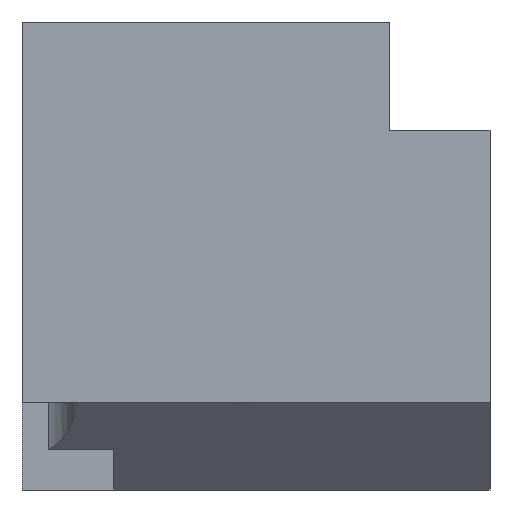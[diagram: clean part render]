
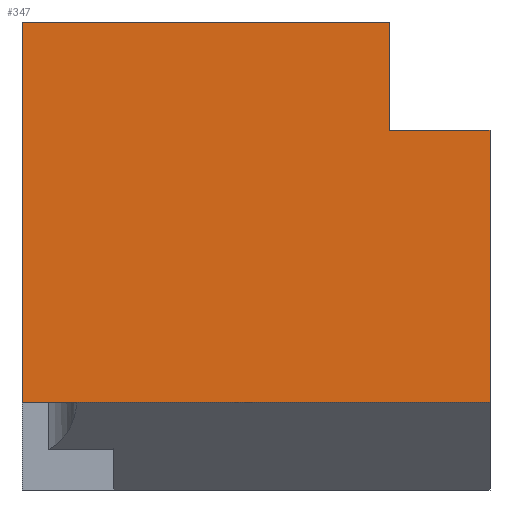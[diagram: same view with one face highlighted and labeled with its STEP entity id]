
A CAD part, front view. The second image highlights one B-rep face of the part: STEP entity #347.
In plain terms, the highlighted planar face has unit normal (0, -1, 0).
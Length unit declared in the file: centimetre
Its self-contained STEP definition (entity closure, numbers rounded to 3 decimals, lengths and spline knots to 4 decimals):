
#52 = CARTESIAN_POINT ( 'NONE',  ( 1000., 0., 1000. ) ) ;
#81 = VECTOR ( 'NONE', #177, 100. ) ;
#83 = VECTOR ( 'NONE', #890, 100. ) ;
#104 = CARTESIAN_POINT ( 'NONE',  ( 0., 0., 188.0284 ) ) ;
#117 = ORIENTED_EDGE ( 'NONE', *, *, #833, .F. ) ;
#118 = CARTESIAN_POINT ( 'NONE',  ( 0., 0., 1000. ) ) ;
#119 = EDGE_CURVE ( 'NONE', #808, #438, #756, .T. ) ;
#134 = PLANE ( 'NONE',  #648 ) ;
#140 = VECTOR ( 'NONE', #167, 100. ) ;
#147 = CARTESIAN_POINT ( 'NONE',  ( 784.7221, 0., 768.9342 ) ) ;
#167 = DIRECTION ( 'NONE',  ( 1., 0., 0. ) ) ;
#172 = VERTEX_POINT ( 'NONE', #147 ) ;
#175 = CARTESIAN_POINT ( 'NONE',  ( 0., 0., 1000. ) ) ;
#177 = DIRECTION ( 'NONE',  ( 0., 0., -1. ) ) ;
#188 = VECTOR ( 'NONE', #417, 100. ) ;
#239 = CARTESIAN_POINT ( 'NONE',  ( 0., 0., 188.0284 ) ) ;
#249 = DIRECTION ( 'NONE',  ( 0., 0., -1. ) ) ;
#253 = ORIENTED_EDGE ( 'NONE', *, *, #467, .F. ) ;
#314 = LINE ( 'NONE', #606, #83 ) ;
#342 = VECTOR ( 'NONE', #536, 100. ) ;
#344 = LINE ( 'NONE', #918, #140 ) ;
#347 = ADVANCED_FACE ( 'NONE', ( #594 ), #134, .F. ) ;
#407 = EDGE_LOOP ( 'NONE', ( #822, #839, #117, #643, #617, #253 ) ) ;
#412 = VERTEX_POINT ( 'NONE', #434 ) ;
#417 = DIRECTION ( 'NONE',  ( 1., 0., 0. ) ) ;
#421 = VERTEX_POINT ( 'NONE', #928 ) ;
#434 = CARTESIAN_POINT ( 'NONE',  ( 784.7221, 0., 1000. ) ) ;
#438 = VERTEX_POINT ( 'NONE', #644 ) ;
#447 = CARTESIAN_POINT ( 'NONE',  ( 0., 0., 1000. ) ) ;
#467 = EDGE_CURVE ( 'NONE', #493, #438, #717, .T. ) ;
#493 = VERTEX_POINT ( 'NONE', #830 ) ;
#536 = DIRECTION ( 'NONE',  ( 1., 0., 0. ) ) ;
#594 = FACE_OUTER_BOUND ( 'NONE', #407, .T. ) ;
#606 = CARTESIAN_POINT ( 'NONE',  ( 784.7221, 0., 768.9342 ) ) ;
#617 = ORIENTED_EDGE ( 'NONE', *, *, #119, .T. ) ;
#640 = LINE ( 'NONE', #175, #188 ) ;
#643 = ORIENTED_EDGE ( 'NONE', *, *, #889, .T. ) ;
#644 = CARTESIAN_POINT ( 'NONE',  ( 1000., 0., 188.0284 ) ) ;
#648 = AXIS2_PLACEMENT_3D ( 'NONE', #447, #938, #739 ) ;
#652 = EDGE_CURVE ( 'NONE', #412, #172, #314, .T. ) ;
#717 = LINE ( 'NONE', #52, #81 ) ;
#739 = DIRECTION ( 'NONE',  ( 0., 0., 1. ) ) ;
#756 = LINE ( 'NONE', #239, #342 ) ;
#808 = VERTEX_POINT ( 'NONE', #104 ) ;
#822 = ORIENTED_EDGE ( 'NONE', *, *, #876, .F. ) ;
#830 = CARTESIAN_POINT ( 'NONE',  ( 1000., 0., 768.9342 ) ) ;
#833 = EDGE_CURVE ( 'NONE', #421, #412, #640, .T. ) ;
#839 = ORIENTED_EDGE ( 'NONE', *, *, #652, .F. ) ;
#852 = VECTOR ( 'NONE', #249, 100. ) ;
#876 = EDGE_CURVE ( 'NONE', #172, #493, #344, .T. ) ;
#889 = EDGE_CURVE ( 'NONE', #421, #808, #914, .T. ) ;
#890 = DIRECTION ( 'NONE',  ( 0., 0., -1. ) ) ;
#914 = LINE ( 'NONE', #118, #852 ) ;
#918 = CARTESIAN_POINT ( 'NONE',  ( 784.7221, 0., 768.9342 ) ) ;
#928 = CARTESIAN_POINT ( 'NONE',  ( 0., 0., 1000. ) ) ;
#938 = DIRECTION ( 'NONE',  ( 0., 1., 0. ) ) ;
